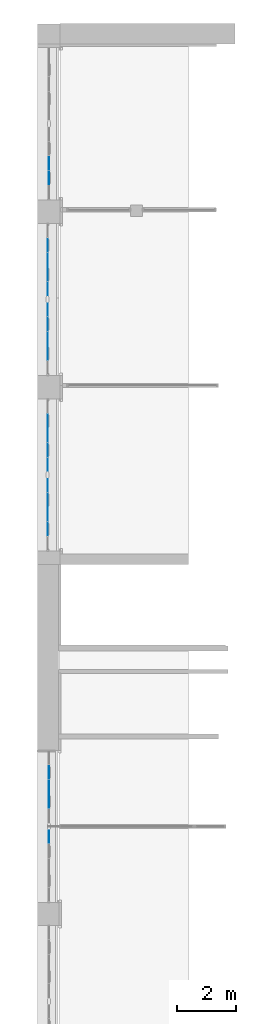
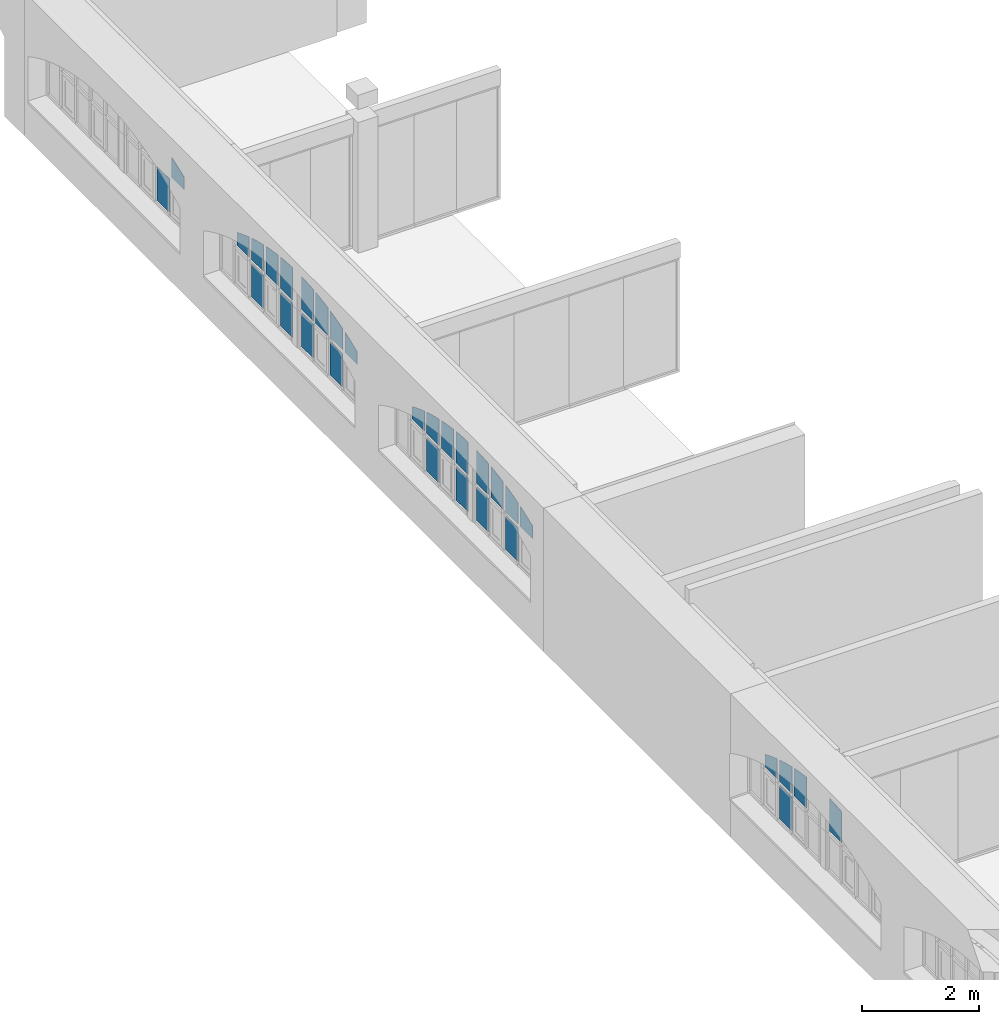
# One storey, part 26 of 32: 31 plates, 4 elements without a shape of their own.
"""IFC2X3 building model written with IfcOpenShell, lengths in millimetres."""

from ifc_helpers import new_model, entity, si_unit, converted_unit, derived_unit, direction, frame, frame_2d, origin, origin_2d_with_axis, place, context, subcontext, project, spatial, polyline, circle_curve, parameter, trimmed, segment, composite_curve, rectangle, outline, extrude, source, transform, mapped, material, type_object, type_shapes, element, aggregate, save


model = new_model("IFC2X3")

# Units and contexts
model_context = context("Model", 3, precision=0.01, world=origin(), true_north=direction((6.123031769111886e-17, 1.0)))
body_context = subcontext(model_context, "Body", "Model", "MODEL_VIEW")
ifc_project = project(units=[si_unit("LENGTHUNIT", "METRE", prefix="MILLI"), si_unit("AREAUNIT", "SQUARE_METRE"), si_unit("VOLUMEUNIT", "CUBIC_METRE"), converted_unit("PLANEANGLEUNIT", "DEGREE", entity("IfcPlaneAngleMeasure", 0.017453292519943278), si_unit("PLANEANGLEUNIT", "RADIAN"), dimensions=[0, 0, 0, 0, 0, 0, 0]), si_unit("MASSUNIT", "GRAM", prefix="KILO"), derived_unit("MASSDENSITYUNIT", [(si_unit("MASSUNIT", "GRAM", prefix="KILO"), 1), (si_unit("LENGTHUNIT", "METRE"), -3)]), derived_unit("IONCONCENTRATIONUNIT", [(si_unit("MASSUNIT", "GRAM", prefix="KILO"), 1), (si_unit("LENGTHUNIT", "METRE"), -3)]), derived_unit("MOMENTOFINERTIAUNIT", [(si_unit("LENGTHUNIT", "METRE"), 4)]), si_unit("TIMEUNIT", "SECOND"), si_unit("FREQUENCYUNIT", "HERTZ"), si_unit("THERMODYNAMICTEMPERATUREUNIT", "DEGREE_CELSIUS"), derived_unit("THERMALTRANSMITTANCEUNIT", [(si_unit("MASSUNIT", "GRAM", prefix="KILO"), 1), (si_unit("THERMODYNAMICTEMPERATUREUNIT", "KELVIN"), -1), (si_unit("TIMEUNIT", "SECOND"), -3)]), derived_unit("THERMALCONDUCTANCEUNIT", [(si_unit("MASSUNIT", "GRAM", prefix="KILO"), 1), (si_unit("THERMODYNAMICTEMPERATUREUNIT", "KELVIN"), -1), (si_unit("TIMEUNIT", "SECOND"), -3), (si_unit("LENGTHUNIT", "METRE"), 1)]), derived_unit("VOLUMETRICFLOWRATEUNIT", [(si_unit("LENGTHUNIT", "METRE", prefix="DECI"), 3), (si_unit("TIMEUNIT", "SECOND"), -1)]), derived_unit("MASSFLOWRATEUNIT", [(si_unit("MASSUNIT", "GRAM", prefix="KILO"), 1), (si_unit("TIMEUNIT", "SECOND"), -1)]), derived_unit("ROTATIONALFREQUENCYUNIT", [(si_unit("TIMEUNIT", "SECOND"), -1)]), si_unit("ELECTRICCURRENTUNIT", "AMPERE"), si_unit("ELECTRICVOLTAGEUNIT", "VOLT"), si_unit("POWERUNIT", "WATT"), si_unit("FORCEUNIT", "NEWTON", prefix="KILO"), si_unit("ILLUMINANCEUNIT", "LUX"), si_unit("LUMINOUSFLUXUNIT", "LUMEN"), si_unit("LUMINOUSINTENSITYUNIT", "CANDELA"), si_unit("ENERGYUNIT", "JOULE"), derived_unit("USERDEFINED", [(si_unit("MASSUNIT", "GRAM", prefix="KILO"), -1), (si_unit("LENGTHUNIT", "METRE"), -2), (si_unit("TIMEUNIT", "SECOND"), 3), (si_unit("LUMINOUSFLUXUNIT", "LUMEN"), 1)]), derived_unit("USERDEFINED", [(si_unit("MASSUNIT", "GRAM", prefix="KILO"), 1), (si_unit("TIMEUNIT", "SECOND"), -3), (si_unit("LENGTHUNIT", "METRE"), 3), (si_unit("ELECTRICCURRENTUNIT", "AMPERE"), -2)]), derived_unit("SOUNDPOWERUNIT", [(si_unit("MASSUNIT", "GRAM", prefix="KILO"), 1), (si_unit("TIMEUNIT", "SECOND"), -3), (si_unit("LENGTHUNIT", "METRE"), 2)]), derived_unit("SOUNDPRESSUREUNIT", [(si_unit("MASSUNIT", "GRAM", prefix="KILO"), 1), (si_unit("LENGTHUNIT", "METRE"), -1), (si_unit("TIMEUNIT", "SECOND"), -2)]), derived_unit("LINEARVELOCITYUNIT", [(si_unit("LENGTHUNIT", "METRE"), 1), (si_unit("TIMEUNIT", "SECOND"), -1)]), si_unit("PRESSUREUNIT", "PASCAL"), derived_unit("USERDEFINED", [(si_unit("MASSUNIT", "GRAM", prefix="KILO"), 1), (si_unit("LENGTHUNIT", "METRE"), -2), (si_unit("TIMEUNIT", "SECOND"), -2)]), derived_unit("LINEARFORCEUNIT", [(si_unit("MASSUNIT", "GRAM", prefix="KILO"), 1), (si_unit("TIMEUNIT", "SECOND"), -2)]), derived_unit("PLANARFORCEUNIT", [(si_unit("MASSUNIT", "GRAM", prefix="KILO"), 1), (si_unit("LENGTHUNIT", "METRE"), -1), (si_unit("TIMEUNIT", "SECOND"), -2)]), derived_unit("SPECIFICHEATCAPACITYUNIT", [(si_unit("THERMODYNAMICTEMPERATUREUNIT", "KELVIN"), -1), (si_unit("LENGTHUNIT", "METRE"), 2), (si_unit("TIMEUNIT", "SECOND"), -2)]), derived_unit("HEATFLUXDENSITYUNIT", [(si_unit("MASSUNIT", "GRAM", prefix="KILO"), 1), (si_unit("TIMEUNIT", "SECOND"), -3)]), derived_unit("HEATINGVALUEUNIT", [(si_unit("LENGTHUNIT", "METRE"), 2), (si_unit("TIMEUNIT", "SECOND"), -2)]), derived_unit("VAPORPERMEABILITYUNIT", [(si_unit("LENGTHUNIT", "METRE"), -1), (si_unit("TIMEUNIT", "SECOND"), 1)]), derived_unit("DYNAMICVISCOSITYUNIT", [(si_unit("MASSUNIT", "GRAM", prefix="KILO"), 1), (si_unit("TIMEUNIT", "SECOND"), -1), (si_unit("LENGTHUNIT", "METRE"), -1)]), derived_unit("THERMALEXPANSIONCOEFFICIENTUNIT", [(si_unit("THERMODYNAMICTEMPERATUREUNIT", "KELVIN"), -1)]), derived_unit("MODULUSOFELASTICITYUNIT", [(si_unit("MASSUNIT", "GRAM", prefix="KILO"), 1), (si_unit("LENGTHUNIT", "METRE"), -1), (si_unit("TIMEUNIT", "SECOND"), -2)]), derived_unit("ISOTHERMALMOISTURECAPACITYUNIT", [(si_unit("MASSUNIT", "GRAM", prefix="KILO"), -1), (si_unit("LENGTHUNIT", "METRE"), 3)]), derived_unit("MOISTUREDIFFUSIVITYUNIT", [(si_unit("TIMEUNIT", "SECOND"), -1), (si_unit("LENGTHUNIT", "METRE"), 2)]), derived_unit("MASSPERLENGTHUNIT", [(si_unit("MASSUNIT", "GRAM", prefix="KILO"), 1), (si_unit("LENGTHUNIT", "METRE"), -1)]), derived_unit("THERMALRESISTANCEUNIT", [(si_unit("MASSUNIT", "GRAM", prefix="KILO"), -1), (si_unit("TIMEUNIT", "SECOND"), 3), (si_unit("THERMODYNAMICTEMPERATUREUNIT", "KELVIN"), 1)]), derived_unit("ACCELERATIONUNIT", [(si_unit("LENGTHUNIT", "METRE"), 1), (si_unit("TIMEUNIT", "SECOND"), -2)]), derived_unit("ANGULARVELOCITYUNIT", [(si_unit("TIMEUNIT", "SECOND"), -1), (si_unit("PLANEANGLEUNIT", "RADIAN"), 1)]), derived_unit("LINEARSTIFFNESSUNIT", [(si_unit("MASSUNIT", "GRAM", prefix="KILO"), 1), (si_unit("TIMEUNIT", "SECOND"), -2)]), derived_unit("WARPINGCONSTANTUNIT", [(si_unit("LENGTHUNIT", "METRE"), 6)]), derived_unit("LINEARMOMENTUNIT", [(si_unit("MASSUNIT", "GRAM", prefix="KILO"), 1), (si_unit("LENGTHUNIT", "METRE"), 1), (si_unit("TIMEUNIT", "SECOND"), -2)]), derived_unit("TORQUEUNIT", [(si_unit("MASSUNIT", "GRAM", prefix="KILO"), 1), (si_unit("LENGTHUNIT", "METRE"), 2), (si_unit("TIMEUNIT", "SECOND"), -2)])], contexts=[model_context])

# Site, building, storey
site_placement = place(None, origin())
site = spatial("IfcSite", under=ifc_project, at=site_placement, Name="Default", CompositionType="ELEMENT")
building_placement = place(site_placement, origin())
building = spatial("IfcBuilding", under=site, at=building_placement, Name="Eesti Rahvusraamatukogu hoone renoveerimise projekteerimistööd", CompositionType="ELEMENT")
storey_placement = place(building_placement, frame((0.0, 0.0, 4950.000000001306)))
storey = spatial("IfcBuildingStorey", under=building, at=storey_placement, Name="2. korrus", CompositionType="ELEMENT", Elevation=4950.000000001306)

# Curtain wall, plates
curtain_wall_type = type_object("IfcCurtainWallType", Name="Curtain Wall:Ak-04", PredefinedType="NOTDEFINED")
curtain_wall_1_placement = place(storey_placement, frame((0.0, 0.0, -4950.000000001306)))
curtain_wall_1 = element("IfcCurtainWall", 1, at=curtain_wall_1_placement, inside=storey, type_object=curtain_wall_type, Name="Curtain Wall:Ak-04", ObjectType="Curtain Wall:Ak-04")
ifc_material = material(Name="EST. Klaas. 3x. Default")
plate_type_1 = type_object("IfcPlateType", Name="System Panel:Peegelaknad 6-16-4-16-4, paneel", PredefinedType="CURTAIN_PANEL", material=ifc_material)
shared_shape_1 = source(origin(), body_context, "Body", "SweptSolid", [
    extrude(rectangle(XDim=10.0, YDim=419.99999999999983, at=origin_2d_with_axis()), frame((0.0, 0.0, 0.0), z_axis=(0.0, 0.0, 1.0), x_axis=(0.0, 1.0, 0.0)), (0.0, 0.0, 1.0), 700.0),
])
type_shapes(plate_type_1, [shared_shape_1])
plate_1_placement = place(curtain_wall_1_placement, frame((-36425.0, 40707.50000000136, 5810.000000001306), z_axis=(0.0, 0.0, 1.0), x_axis=(0.0, -1.0, 0.0)))
plate_1 = element("IfcPlate", 2, at=plate_1_placement, type_object=plate_type_1, material=ifc_material, Name="System Panel:Peegelaknad 6-16-4-16-4, paneel", ObjectType="System Panel:Peegelaknad 6-16-4-16-4, paneel", context=body_context, shape_type="MappedRepresentation", body=[
    mapped(shared_shape_1, transform((0.0, 0.0, 0.0), scale=1.0)),
])
plate_2_placement = place(curtain_wall_1_placement, frame((-36425.0, 38007.50000000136, 5810.000000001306), z_axis=(0.0, 0.0, 1.0), x_axis=(0.0, -1.0, 0.0)))
plate_2 = element("IfcPlate", 3, at=plate_2_placement, type_object=plate_type_1, material=ifc_material, Name="System Panel:Peegelaknad 6-16-4-16-4, paneel", ObjectType="System Panel:Peegelaknad 6-16-4-16-4, paneel", context=body_context, shape_type="MappedRepresentation", body=[
    mapped(shared_shape_1, transform((0.0, 0.0, 0.0), scale=1.0)),
])

# Curtain wall, plate
curtain_wall_2_placement = place(storey_placement, frame((0.0, 0.0, -4950.000000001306)))
curtain_wall_2 = element("IfcCurtainWall", 4, at=curtain_wall_2_placement, inside=storey, type_object=curtain_wall_type, Name="Curtain Wall:Ak-04", ObjectType="Curtain Wall:Ak-04")
plate_3_placement = place(curtain_wall_2_placement, frame((-36383.9999999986, 44009.000000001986, 5810.000000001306), z_axis=(0.0, 0.0, 1.0), x_axis=(0.0, -1.0, 0.0)))
plate_3 = element("IfcPlate", 5, at=plate_3_placement, type_object=plate_type_1, material=ifc_material, Name="System Panel:Peegelaknad 6-16-4-16-4, paneel", ObjectType="System Panel:Peegelaknad 6-16-4-16-4, paneel", context=body_context, shape_type="MappedRepresentation", body=[
    mapped(shared_shape_1, transform((0.0, 0.0, 0.0), scale=1.0)),
])

# Curtain wall, plates
curtain_wall_3_placement = place(storey_placement, frame((0.0, 0.0, -4950.000000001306)))
curtain_wall_3 = element("IfcCurtainWall", 6, at=curtain_wall_3_placement, inside=storey, type_object=curtain_wall_type, Name="Curtain Wall:Ak-04", ObjectType="Curtain Wall:Ak-04")
plate_4_placement = place(curtain_wall_3_placement, frame((-36425.0, 34705.44029191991, 5810.000000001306), z_axis=(0.0, 0.0, 1.0), x_axis=(0.0, -1.0, 0.0)))
plate_4 = element("IfcPlate", 7, at=plate_4_placement, type_object=plate_type_1, material=ifc_material, Name="System Panel:Peegelaknad 6-16-4-16-4, paneel", ObjectType="System Panel:Peegelaknad 6-16-4-16-4, paneel", context=body_context, shape_type="MappedRepresentation", body=[
    mapped(shared_shape_1, transform((0.0, 0.0, 0.0), scale=1.0)),
])
plate_5_placement = place(curtain_wall_3_placement, frame((-36425.0, 32005.44029191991, 5810.000000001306), z_axis=(0.0, 0.0, 1.0), x_axis=(0.0, -1.0, 0.0)))
plate_5 = element("IfcPlate", 8, at=plate_5_placement, type_object=plate_type_1, material=ifc_material, Name="System Panel:Peegelaknad 6-16-4-16-4, paneel", ObjectType="System Panel:Peegelaknad 6-16-4-16-4, paneel", context=body_context, shape_type="MappedRepresentation", body=[
    mapped(shared_shape_1, transform((0.0, 0.0, 0.0), scale=1.0)),
])

# Curtain wall, plate
curtain_wall_4_placement = place(storey_placement, frame((0.0, 0.0, -4950.000000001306)))
curtain_wall_4 = element("IfcCurtainWall", 9, at=curtain_wall_4_placement, inside=storey, type_object=curtain_wall_type, Name="Curtain Wall:Ak-04", ObjectType="Curtain Wall:Ak-04")
plate_6_placement = place(curtain_wall_4_placement, frame((-36383.999999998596, 22698.695591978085, 5810.000000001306), z_axis=(0.0, 0.0, 1.0), x_axis=(0.0, -1.0, 0.0)))
plate_6 = element("IfcPlate", 10, at=plate_6_placement, type_object=plate_type_1, material=ifc_material, Name="System Panel:Peegelaknad 6-16-4-16-4, paneel", ObjectType="System Panel:Peegelaknad 6-16-4-16-4, paneel", context=body_context, shape_type="MappedRepresentation", body=[
    mapped(shared_shape_1, transform((0.0, 0.0, 0.0), scale=1.0)),
])

# Plate
plate_type_2 = type_object("IfcPlateType", Name="System Panel:Peegelaknad 6-16-4-16-4, paneel", PredefinedType="CURTAIN_PANEL", material=ifc_material)
shared_shape_2 = source(origin(), body_context, "Body", "SweptSolid", [
    extrude(rectangle(XDim=10.0, YDim=410.0000000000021, at=origin_2d_with_axis()), frame((0.0, 0.0, 0.0), z_axis=(0.0, 0.0, 1.0), x_axis=(0.0, 1.0, 0.0)), (0.0, 0.0, 1.0), 700.0),
])
type_shapes(plate_type_2, [shared_shape_2])
plate_7_placement = place(curtain_wall_1_placement, frame((-36425.0, 39712.50000000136, 5810.000000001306), z_axis=(0.0, 0.0, 1.0), x_axis=(0.0, -1.0, 0.0)))
plate_7 = element("IfcPlate", 11, at=plate_7_placement, type_object=plate_type_2, material=ifc_material, Name="System Panel:Peegelaknad 6-16-4-16-4, paneel", ObjectType="System Panel:Peegelaknad 6-16-4-16-4, paneel", context=body_context, shape_type="MappedRepresentation", body=[
    mapped(shared_shape_2, transform((0.0, 0.0, 0.0), scale=1.0)),
])

plate_8_placement = place(curtain_wall_1_placement, frame((-36425.0, 39002.50000000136, 5810.000000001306), z_axis=(0.0, 0.0, 1.0), x_axis=(0.0, -1.0, 0.0)))
plate_8 = element("IfcPlate", 12, at=plate_8_placement, type_object=plate_type_2, material=ifc_material, Name="System Panel:Peegelaknad 6-16-4-16-4, paneel", ObjectType="System Panel:Peegelaknad 6-16-4-16-4, paneel", context=body_context, shape_type="MappedRepresentation", body=[
    mapped(shared_shape_2, transform((0.0, 0.0, 0.0), scale=1.0)),
])

plate_9_placement = place(curtain_wall_3_placement, frame((-36425.0, 33710.44029191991, 5810.000000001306), z_axis=(0.0, 0.0, 1.0), x_axis=(0.0, -1.0, 0.0)))
plate_9 = element("IfcPlate", 13, at=plate_9_placement, type_object=plate_type_2, material=ifc_material, Name="System Panel:Peegelaknad 6-16-4-16-4, paneel", ObjectType="System Panel:Peegelaknad 6-16-4-16-4, paneel", context=body_context, shape_type="MappedRepresentation", body=[
    mapped(shared_shape_2, transform((0.0, 0.0, 0.0), scale=1.0)),
])

plate_10_placement = place(curtain_wall_3_placement, frame((-36425.0, 33000.440291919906, 5810.000000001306), z_axis=(0.0, 0.0, 1.0), x_axis=(0.0, -1.0, 0.0)))
plate_10 = element("IfcPlate", 14, at=plate_10_placement, type_object=plate_type_2, material=ifc_material, Name="System Panel:Peegelaknad 6-16-4-16-4, paneel", ObjectType="System Panel:Peegelaknad 6-16-4-16-4, paneel", context=body_context, shape_type="MappedRepresentation", body=[
    mapped(shared_shape_2, transform((0.0, 0.0, 0.0), scale=1.0)),
])

plate_type_3 = type_object("IfcPlateType", Name="System Panel:Peegelaknad 6-16-4-16-4, paneel", PredefinedType="CURTAIN_PANEL", material=ifc_material)
shared_shape_3 = source(origin(), body_context, "Body", "SweptSolid", [
    extrude(outline(composite_curve([segment(polyline([(-170.7819693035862, -210.0), (92.47651241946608, -210.0)]), True, "CONTINUOUS"), segment(trimmed(circle_curve(frame_2d((-4790.558088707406, 1850.0), x_axis=(0.9547498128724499, -0.29741014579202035)), 5299.776119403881), [parameter(354.42875253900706)], [parameter(359.27620733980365)], True, "PARAMETER"), True, "CONTINUOUS"), segment(polyline([(249.0874261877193, 210.0), (-170.7819693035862, 210.0)]), True, "CONTINUOUS"), segment(polyline([(-170.7819693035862, 210.0), (-170.7819693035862, -210.0)]), True, "CONTINUOUS")], self_intersect=False)), frame((0.0, -5.0, 170.7819693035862), z_axis=(0.0, 1.0, 0.0), x_axis=(0.0, 0.0, 1.0)), (0.0, 0.0, 1.0), 10.0),
])
type_shapes(plate_type_3, [shared_shape_3])
plate_11_placement = place(curtain_wall_1_placement, frame((-36425.0, 41207.50000000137, 6590.000000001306), z_axis=(0.0, 0.0, 1.0), x_axis=(0.0, -1.0, 0.0)))
plate_11 = element("IfcPlate", 15, at=plate_11_placement, type_object=plate_type_3, material=ifc_material, Name="System Panel:Peegelaknad 6-16-4-16-4, paneel", ObjectType="System Panel:Peegelaknad 6-16-4-16-4, paneel", context=body_context, shape_type="MappedRepresentation", body=[
    mapped(shared_shape_3, transform((0.0, 0.0, 0.0), scale=1.0)),
])

plate_12_placement = place(curtain_wall_3_placement, frame((-36425.0, 35205.440291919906, 6590.000000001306), z_axis=(0.0, 0.0, 1.0), x_axis=(0.0, -1.0, 0.0)))
plate_12 = element("IfcPlate", 16, at=plate_12_placement, type_object=plate_type_3, material=ifc_material, Name="System Panel:Peegelaknad 6-16-4-16-4, paneel", ObjectType="System Panel:Peegelaknad 6-16-4-16-4, paneel", context=body_context, shape_type="MappedRepresentation", body=[
    mapped(shared_shape_3, transform((0.0, 0.0, 0.0), scale=1.0)),
])

plate_13_placement = place(curtain_wall_4_placement, frame((-36383.999999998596, 23198.695591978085, 6590.000000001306), z_axis=(0.0, 0.0, 1.0), x_axis=(0.0, -1.0, 0.0)))
plate_13 = element("IfcPlate", 17, at=plate_13_placement, type_object=plate_type_3, material=ifc_material, Name="System Panel:Peegelaknad 6-16-4-16-4, paneel", ObjectType="System Panel:Peegelaknad 6-16-4-16-4, paneel", context=body_context, shape_type="MappedRepresentation", body=[
    mapped(shared_shape_3, transform((0.0, 0.0, 0.0), scale=1.0)),
])

plate_type_4 = type_object("IfcPlateType", Name="System Panel:Peegelaknad 6-16-4-16-4, paneel", PredefinedType="CURTAIN_PANEL", material=ifc_material)
shared_shape_4 = source(origin(), body_context, "Body", "SweptSolid", [
    extrude(outline(composite_curve([segment(polyline([(-250.28582961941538, -210.0), (194.91849672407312, -210.0)]), True, "CONTINUOUS"), segment(trimmed(circle_curve(frame_2d((-4870.061949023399, 1350.0), x_axis=(0.9788729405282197, -0.20446947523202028)), 5299.776119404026), [parameter(354.6797564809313)], [parameter(359.3768492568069)], True, "PARAMETER"), True, "CONTINUOUS"), segment(polyline([(305.65316251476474, 210.0), (-250.28582961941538, 210.0)]), True, "CONTINUOUS"), segment(polyline([(-250.28582961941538, 210.0), (-250.28582961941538, -210.0)]), True, "CONTINUOUS")], self_intersect=False)), frame((0.0, -5.0, 250.28582961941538), z_axis=(0.0, 1.0, 0.0), x_axis=(0.0, 0.0, 1.0)), (0.0, 0.0, 1.0), 10.0),
])
type_shapes(plate_type_4, [shared_shape_4])
plate_14_placement = place(curtain_wall_1_placement, frame((-36425.0, 40707.50000000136, 6590.000000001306), z_axis=(0.0, 0.0, 1.0), x_axis=(0.0, -1.0, 0.0)))
plate_14 = element("IfcPlate", 18, at=plate_14_placement, type_object=plate_type_4, material=ifc_material, Name="System Panel:Peegelaknad 6-16-4-16-4, paneel", ObjectType="System Panel:Peegelaknad 6-16-4-16-4, paneel", context=body_context, shape_type="MappedRepresentation", body=[
    mapped(shared_shape_4, transform((0.0, 0.0, 0.0), scale=1.0)),
])

plate_15_placement = place(curtain_wall_3_placement, frame((-36425.0, 34705.44029191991, 6590.000000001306), z_axis=(0.0, 0.0, 1.0), x_axis=(0.0, -1.0, 0.0)))
plate_15 = element("IfcPlate", 19, at=plate_15_placement, type_object=plate_type_4, material=ifc_material, Name="System Panel:Peegelaknad 6-16-4-16-4, paneel", ObjectType="System Panel:Peegelaknad 6-16-4-16-4, paneel", context=body_context, shape_type="MappedRepresentation", body=[
    mapped(shared_shape_4, transform((0.0, 0.0, 0.0), scale=1.0)),
])

plate_16_placement = place(curtain_wall_4_placement, frame((-36383.999999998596, 22698.695591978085, 6590.000000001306), z_axis=(0.0, 0.0, 1.0), x_axis=(0.0, -1.0, 0.0)))
plate_16 = element("IfcPlate", 20, at=plate_16_placement, type_object=plate_type_4, material=ifc_material, Name="System Panel:Peegelaknad 6-16-4-16-4, paneel", ObjectType="System Panel:Peegelaknad 6-16-4-16-4, paneel", context=body_context, shape_type="MappedRepresentation", body=[
    mapped(shared_shape_4, transform((0.0, 0.0, 0.0), scale=1.0)),
])

plate_type_5 = type_object("IfcPlateType", Name="System Panel:Peegelaknad 6-16-4-16-4, paneel", PredefinedType="CURTAIN_PANEL", material=ifc_material)
shared_shape_5 = source(origin(), body_context, "Body", "SweptSolid", [
    extrude(outline(composite_curve([segment(polyline([(-303.532144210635, -210.0), (269.381493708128, -210.0)]), True, "CONTINUOUS"), segment(trimmed(circle_curve(frame_2d((-4923.308263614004, 850.0), x_axis=(0.9937612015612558, -0.11152880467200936)), 5299.776119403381), [parameter(354.8659988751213)], [parameter(359.46749610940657)], True, "PARAMETER"), True, "CONTINUOUS"), segment(polyline([(337.6827947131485, 210.0), (-303.532144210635, 210.0)]), True, "CONTINUOUS"), segment(polyline([(-303.532144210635, 210.0), (-303.532144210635, -210.0)]), True, "CONTINUOUS")], self_intersect=False)), frame((0.0, -5.0, 303.532144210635), z_axis=(0.0, 1.0, 0.0), x_axis=(0.0, 0.0, 1.0)), (0.0, 0.0, 1.0), 10.0),
])
type_shapes(plate_type_5, [shared_shape_5])
plate_17_placement = place(curtain_wall_1_placement, frame((-36425.0, 40207.50000000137, 6590.000000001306), z_axis=(0.0, 0.0, 1.0), x_axis=(0.0, -1.0, 0.0)))
plate_17 = element("IfcPlate", 21, at=plate_17_placement, type_object=plate_type_5, material=ifc_material, Name="System Panel:Peegelaknad 6-16-4-16-4, paneel", ObjectType="System Panel:Peegelaknad 6-16-4-16-4, paneel", context=body_context, shape_type="MappedRepresentation", body=[
    mapped(shared_shape_5, transform((0.0, 0.0, 0.0), scale=1.0)),
])

plate_18_placement = place(curtain_wall_3_placement, frame((-36425.0, 34205.44029191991, 6590.000000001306), z_axis=(0.0, 0.0, 1.0), x_axis=(0.0, -1.0, 0.0)))
plate_18 = element("IfcPlate", 22, at=plate_18_placement, type_object=plate_type_5, material=ifc_material, Name="System Panel:Peegelaknad 6-16-4-16-4, paneel", ObjectType="System Panel:Peegelaknad 6-16-4-16-4, paneel", context=body_context, shape_type="MappedRepresentation", body=[
    mapped(shared_shape_5, transform((0.0, 0.0, 0.0), scale=1.0)),
])

plate_19_placement = place(curtain_wall_4_placement, frame((-36383.999999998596, 22198.69559197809, 6590.000000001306), z_axis=(0.0, 0.0, 1.0), x_axis=(0.0, -1.0, 0.0)))
plate_19 = element("IfcPlate", 23, at=plate_19_placement, type_object=plate_type_5, material=ifc_material, Name="System Panel:Peegelaknad 6-16-4-16-4, paneel", ObjectType="System Panel:Peegelaknad 6-16-4-16-4, paneel", context=body_context, shape_type="MappedRepresentation", body=[
    mapped(shared_shape_5, transform((0.0, 0.0, 0.0), scale=1.0)),
])

plate_type_6 = type_object("IfcPlateType", Name="System Panel:Peegelaknad 6-16-4-16-4, paneel", PredefinedType="CURTAIN_PANEL", material=ifc_material)
shared_shape_6 = source(origin(), body_context, "Body", "SweptSolid", [
    extrude(outline(composite_curve([segment(polyline([(-332.05191026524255, -205.0), (318.27888725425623, -205.0)]), True, "CONTINUOUS"), segment(trimmed(circle_curve(frame_2d((-4951.82802966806, 355.0), x_axis=(1.0, 0.0)), 5299.776119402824), [parameter(353.9345277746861)], [parameter(358.3781362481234)], True, "PARAMETER"), True, "CONTINUOUS"), segment(polyline([(345.8249332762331, 205.0), (-332.05191026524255, 205.0)]), True, "CONTINUOUS"), segment(polyline([(-332.05191026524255, 205.0), (-332.05191026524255, -205.0)]), True, "CONTINUOUS")], self_intersect=False)), frame((0.0, -5.0, 332.05191026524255), z_axis=(0.0, 1.0, 0.0), x_axis=(0.0, 0.0, 1.0)), (0.0, 0.0, 1.0), 10.0),
])
type_shapes(plate_type_6, [shared_shape_6])
plate_20_placement = place(curtain_wall_1_placement, frame((-36425.0, 39712.50000000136, 6590.000000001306), z_axis=(0.0, 0.0, 1.0), x_axis=(0.0, -1.0, 0.0)))
plate_20 = element("IfcPlate", 24, at=plate_20_placement, type_object=plate_type_6, material=ifc_material, Name="System Panel:Peegelaknad 6-16-4-16-4, paneel", ObjectType="System Panel:Peegelaknad 6-16-4-16-4, paneel", context=body_context, shape_type="MappedRepresentation", body=[
    mapped(shared_shape_6, transform((0.0, 0.0, 0.0), scale=1.0)),
])

plate_21_placement = place(curtain_wall_3_placement, frame((-36425.0, 33710.44029191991, 6590.000000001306), z_axis=(0.0, 0.0, 1.0), x_axis=(0.0, -1.0, 0.0)))
plate_21 = element("IfcPlate", 25, at=plate_21_placement, type_object=plate_type_6, material=ifc_material, Name="System Panel:Peegelaknad 6-16-4-16-4, paneel", ObjectType="System Panel:Peegelaknad 6-16-4-16-4, paneel", context=body_context, shape_type="MappedRepresentation", body=[
    mapped(shared_shape_6, transform((0.0, 0.0, 0.0), scale=1.0)),
])

plate_type_7 = type_object("IfcPlateType", Name="System Panel:Peegelaknad 6-16-4-16-4, paneel", PredefinedType="CURTAIN_PANEL", material=ifc_material)
shared_shape_7 = source(origin(), body_context, "Body", "SweptSolid", [
    extrude(outline(composite_curve([segment(polyline([(-332.0519102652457, 205.0), (-332.0519102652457, -205.0)]), True, "CONTINUOUS"), segment(polyline([(-332.0519102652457, -205.0), (318.2788872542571, -205.0)]), True, "CONTINUOUS"), segment(trimmed(circle_curve(frame_2d((-4951.828029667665, 355.0), x_axis=(0.9937612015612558, -0.1115288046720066)), 5299.776119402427), [parameter(0.3379797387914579)], [parameter(4.7815882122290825)], True, "PARAMETER"), True, "CONTINUOUS"), segment(polyline([(345.8249332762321, 205.0), (-332.0519102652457, 205.0)]), True, "CONTINUOUS")], self_intersect=False)), frame((0.0, -5.0, 332.0519102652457), z_axis=(0.0, -1.0, 0.0), x_axis=(0.0, 0.0, 1.0)), (0.0, 0.0, -1.0), 10.0),
])
type_shapes(plate_type_7, [shared_shape_7])
plate_22_placement = place(curtain_wall_1_placement, frame((-36425.0, 39002.50000000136, 6590.000000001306), z_axis=(0.0, 0.0, 1.0), x_axis=(0.0, -1.0, 0.0)))
plate_22 = element("IfcPlate", 26, at=plate_22_placement, type_object=plate_type_7, material=ifc_material, Name="System Panel:Peegelaknad 6-16-4-16-4, paneel", ObjectType="System Panel:Peegelaknad 6-16-4-16-4, paneel", context=body_context, shape_type="MappedRepresentation", body=[
    mapped(shared_shape_7, transform((0.0, 0.0, 0.0), scale=1.0)),
])

plate_23_placement = place(curtain_wall_3_placement, frame((-36425.0, 33000.440291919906, 6590.000000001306), z_axis=(0.0, 0.0, 1.0), x_axis=(0.0, -1.0, 0.0)))
plate_23 = element("IfcPlate", 27, at=plate_23_placement, type_object=plate_type_7, material=ifc_material, Name="System Panel:Peegelaknad 6-16-4-16-4, paneel", ObjectType="System Panel:Peegelaknad 6-16-4-16-4, paneel", context=body_context, shape_type="MappedRepresentation", body=[
    mapped(shared_shape_7, transform((0.0, 0.0, 0.0), scale=1.0)),
])

plate_24_placement = place(curtain_wall_4_placement, frame((-36383.999999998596, 20993.695591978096, 6590.000000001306), z_axis=(0.0, 0.0, 1.0), x_axis=(0.0, -1.0, 0.0)))
plate_24 = element("IfcPlate", 28, at=plate_24_placement, type_object=plate_type_7, material=ifc_material, Name="System Panel:Peegelaknad 6-16-4-16-4, paneel", ObjectType="System Panel:Peegelaknad 6-16-4-16-4, paneel", context=body_context, shape_type="MappedRepresentation", body=[
    mapped(shared_shape_7, transform((0.0, 0.0, 0.0), scale=1.0)),
])

aggregate(curtain_wall_4, [plate_6, plate_13, plate_16, plate_19, plate_24])

plate_type_8 = type_object("IfcPlateType", Name="System Panel:Peegelaknad 6-16-4-16-4, paneel", PredefinedType="CURTAIN_PANEL", material=ifc_material)
shared_shape_8 = source(origin(), body_context, "Body", "SweptSolid", [
    extrude(outline(composite_curve([segment(polyline([(-303.53214421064, 210.0), (-303.53214421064, -210.0)]), True, "CONTINUOUS"), segment(polyline([(-303.53214421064, -210.0), (269.3814937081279, -210.0)]), True, "CONTINUOUS"), segment(trimmed(circle_curve(frame_2d((-4923.3082636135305, 850.0), x_axis=(0.9788729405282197, -0.2044694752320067)), 5299.7761194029), [parameter(0.2609913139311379)], [parameter(4.862488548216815)], True, "PARAMETER"), True, "CONTINUOUS"), segment(polyline([(337.6827947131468, 210.0), (-303.53214421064, 210.0)]), True, "CONTINUOUS")], self_intersect=False)), frame((0.0, -5.0, 303.53214421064), z_axis=(0.0, -1.0, 0.0), x_axis=(0.0, 0.0, 1.0)), (0.0, 0.0, -1.0), 10.0),
])
type_shapes(plate_type_8, [shared_shape_8])
plate_25_placement = place(curtain_wall_1_placement, frame((-36425.0, 38507.50000000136, 6590.000000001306), z_axis=(0.0, 0.0, 1.0), x_axis=(0.0, -1.0, 0.0)))
plate_25 = element("IfcPlate", 29, at=plate_25_placement, type_object=plate_type_8, material=ifc_material, Name="System Panel:Peegelaknad 6-16-4-16-4, paneel", ObjectType="System Panel:Peegelaknad 6-16-4-16-4, paneel", context=body_context, shape_type="MappedRepresentation", body=[
    mapped(shared_shape_8, transform((0.0, 0.0, 0.0), scale=1.0)),
])

plate_26_placement = place(curtain_wall_3_placement, frame((-36425.0, 32505.44029191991, 6590.000000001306), z_axis=(0.0, 0.0, 1.0), x_axis=(0.0, -1.0, 0.0)))
plate_26 = element("IfcPlate", 30, at=plate_26_placement, type_object=plate_type_8, material=ifc_material, Name="System Panel:Peegelaknad 6-16-4-16-4, paneel", ObjectType="System Panel:Peegelaknad 6-16-4-16-4, paneel", context=body_context, shape_type="MappedRepresentation", body=[
    mapped(shared_shape_8, transform((0.0, 0.0, 0.0), scale=1.0)),
])

plate_type_9 = type_object("IfcPlateType", Name="System Panel:Peegelaknad 6-16-4-16-4, paneel", PredefinedType="CURTAIN_PANEL", material=ifc_material)
shared_shape_9 = source(origin(), body_context, "Body", "SweptSolid", [
    extrude(outline(composite_curve([segment(polyline([(-250.28582961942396, 210.0), (-250.28582961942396, -210.0)]), True, "CONTINUOUS"), segment(polyline([(-250.28582961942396, -210.0), (194.9184967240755, -210.0)]), True, "CONTINUOUS"), segment(trimmed(circle_curve(frame_2d((-4870.061949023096, 1350.0), x_axis=(0.9547498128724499, -0.2974101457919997)), 5299.776119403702), [parameter(0.18342876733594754)], [parameter(4.880521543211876)], True, "PARAMETER"), True, "CONTINUOUS"), segment(polyline([(305.6531625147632, 210.0), (-250.28582961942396, 210.0)]), True, "CONTINUOUS")], self_intersect=False)), frame((0.0, -5.0, 250.28582961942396), z_axis=(0.0, -1.0, 0.0), x_axis=(0.0, 0.0, 1.0)), (0.0, 0.0, -1.0), 10.0),
])
type_shapes(plate_type_9, [shared_shape_9])
plate_27_placement = place(curtain_wall_1_placement, frame((-36425.0, 38007.50000000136, 6590.000000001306), z_axis=(0.0, 0.0, 1.0), x_axis=(0.0, -1.0, 0.0)))
plate_27 = element("IfcPlate", 31, at=plate_27_placement, type_object=plate_type_9, material=ifc_material, Name="System Panel:Peegelaknad 6-16-4-16-4, paneel", ObjectType="System Panel:Peegelaknad 6-16-4-16-4, paneel", context=body_context, shape_type="MappedRepresentation", body=[
    mapped(shared_shape_9, transform((0.0, 0.0, 0.0), scale=1.0)),
])

plate_28_placement = place(curtain_wall_3_placement, frame((-36425.0, 32005.44029191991, 6590.000000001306), z_axis=(0.0, 0.0, 1.0), x_axis=(0.0, -1.0, 0.0)))
plate_28 = element("IfcPlate", 32, at=plate_28_placement, type_object=plate_type_9, material=ifc_material, Name="System Panel:Peegelaknad 6-16-4-16-4, paneel", ObjectType="System Panel:Peegelaknad 6-16-4-16-4, paneel", context=body_context, shape_type="MappedRepresentation", body=[
    mapped(shared_shape_9, transform((0.0, 0.0, 0.0), scale=1.0)),
])

plate_type_10 = type_object("IfcPlateType", Name="System Panel:Peegelaknad 6-16-4-16-4, paneel", PredefinedType="CURTAIN_PANEL", material=ifc_material)
shared_shape_10 = source(origin(), body_context, "Body", "SweptSolid", [
    extrude(outline(composite_curve([segment(polyline([(-170.78196930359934, 210.0), (-170.78196930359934, -210.0)]), True, "CONTINUOUS"), segment(polyline([(-170.78196930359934, -210.0), (92.47651241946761, -210.0)]), True, "CONTINUOUS"), segment(trimmed(circle_curve(frame_2d((-4790.558088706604, 1850.0), x_axis=(0.9206661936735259, -0.39035081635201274)), 5299.776119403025), [parameter(0.10296582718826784)], [parameter(4.950420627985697)], True, "PARAMETER"), True, "CONTINUOUS"), segment(polyline([(249.0874261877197, 210.0), (-170.78196930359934, 210.0)]), True, "CONTINUOUS")], self_intersect=False)), frame((0.0, -5.0, 170.78196930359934), z_axis=(0.0, -1.0, 0.0), x_axis=(0.0, 0.0, 1.0)), (0.0, 0.0, -1.0), 10.0),
])
type_shapes(plate_type_10, [shared_shape_10])
plate_29_placement = place(curtain_wall_1_placement, frame((-36425.0, 37507.50000000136, 6590.000000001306), z_axis=(0.0, 0.0, 1.0), x_axis=(0.0, -1.0, 0.0)))
plate_29 = element("IfcPlate", 33, at=plate_29_placement, type_object=plate_type_10, material=ifc_material, Name="System Panel:Peegelaknad 6-16-4-16-4, paneel", ObjectType="System Panel:Peegelaknad 6-16-4-16-4, paneel", context=body_context, shape_type="MappedRepresentation", body=[
    mapped(shared_shape_10, transform((0.0, 0.0, 0.0), scale=1.0)),
])

aggregate(curtain_wall_1, [plate_1, plate_7, plate_8, plate_2, plate_11, plate_14, plate_17, plate_20, plate_22, plate_25, plate_27, plate_29])

plate_30_placement = place(curtain_wall_2_placement, frame((-36383.9999999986, 43509.00000000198, 6590.000000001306), z_axis=(0.0, 0.0, 1.0), x_axis=(0.0, -1.0, 0.0)))
plate_30 = element("IfcPlate", 34, at=plate_30_placement, type_object=plate_type_10, material=ifc_material, Name="System Panel:Peegelaknad 6-16-4-16-4, paneel", ObjectType="System Panel:Peegelaknad 6-16-4-16-4, paneel", context=body_context, shape_type="MappedRepresentation", body=[
    mapped(shared_shape_10, transform((0.0, 0.0, 0.0), scale=1.0)),
])

aggregate(curtain_wall_2, [plate_3, plate_30])

plate_31_placement = place(curtain_wall_3_placement, frame((-36425.0, 31505.44029191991, 6590.000000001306), z_axis=(0.0, 0.0, 1.0), x_axis=(0.0, -1.0, 0.0)))
plate_31 = element("IfcPlate", 35, at=plate_31_placement, type_object=plate_type_10, material=ifc_material, Name="System Panel:Peegelaknad 6-16-4-16-4, paneel", ObjectType="System Panel:Peegelaknad 6-16-4-16-4, paneel", context=body_context, shape_type="MappedRepresentation", body=[
    mapped(shared_shape_10, transform((0.0, 0.0, 0.0), scale=1.0)),
])

aggregate(curtain_wall_3, [plate_4, plate_9, plate_10, plate_5, plate_12, plate_15, plate_18, plate_21, plate_23, plate_26, plate_28, plate_31])

save(model, "model.ifc")
